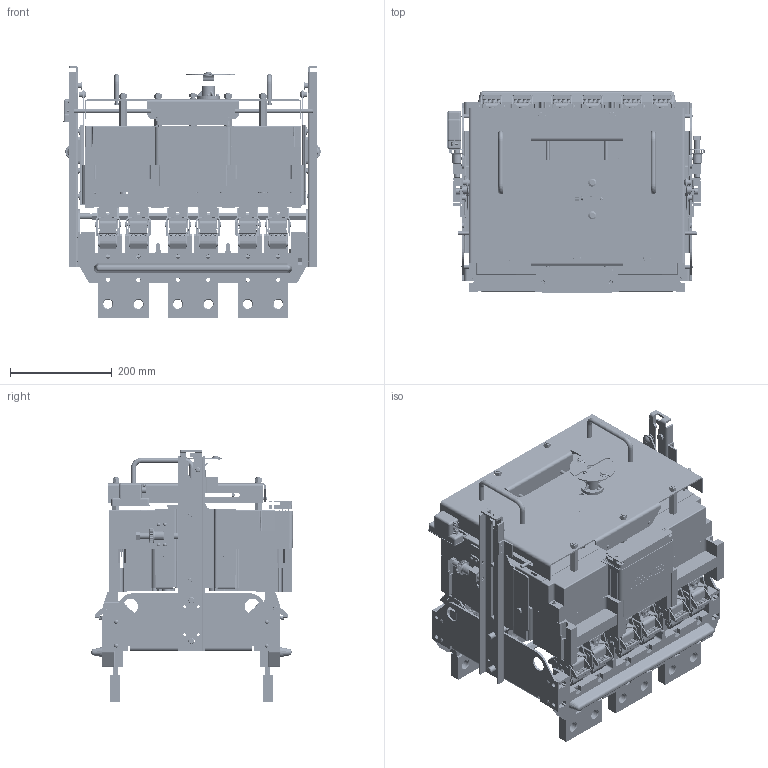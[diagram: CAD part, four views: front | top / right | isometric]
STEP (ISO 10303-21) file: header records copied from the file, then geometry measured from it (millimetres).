
FILE_DESCRIPTION (( 'STEP AP203' ), '1' );
FILE_NAME ('臍 55-43 薰.STEP', '2014-06-23T12:13:22', ( 'admin' ), ( 'Microsoft' ), 'SwSTEP 2.0', 'SolidWorks 2007', '' );
FILE_SCHEMA (( 'CONFIG_CONTROL_DESIGN' ));
Products named in the file (1): 臍 55-43 薰
Bounding box: 507.04 x 396.27 x 494.25 mm (x, y, z)
Surface area: 2862529.4 mm2 (no closed solid volume)
Topology: 0 solids, 1327 shells, 10503 faces, 42338 edges, 32390 vertices
Faces by surface type: plane 5176, cylinder 3547, bspline 930, torus 459, cone 303, sphere 88
Entity records: 886958 total; most frequent: CARTESIAN_POINT 548258, DIRECTION 68538, ORIENTED_EDGE 60995, EDGE_CURVE 42305, VERTEX_POINT 32390, LINE 24994, VECTOR 24994, AXIS2_PLACEMENT_3D 21772
